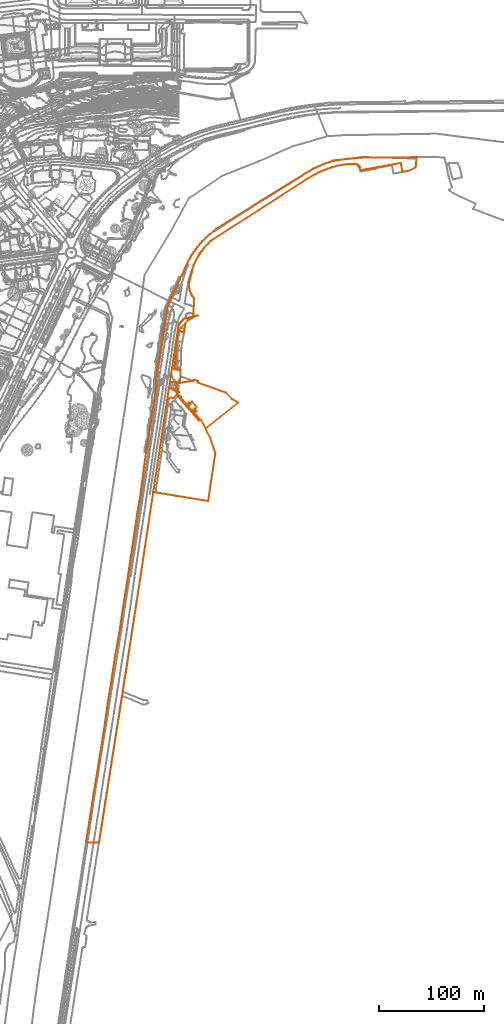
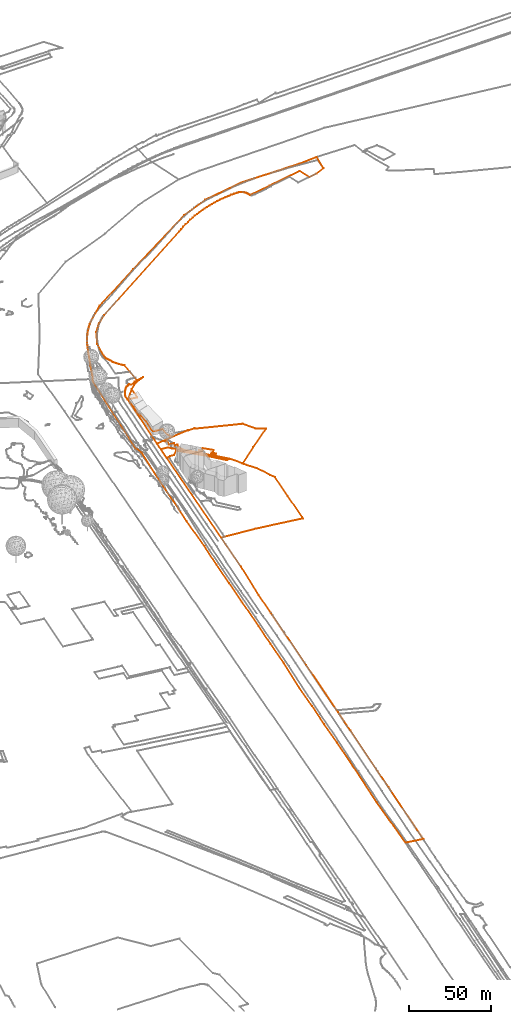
# Not in any storey, part 211 of 494: 4 proxies.
"""IFC2X3 model written with IfcOpenShell, lengths in metres."""

from ifc_helpers import new_model, entity, si_unit, frame, origin_with_axes, place, context, subcontext, project, element, save


model = new_model("IFC2X3")

# Units and contexts
model_context = context("Model", 3, precision=1e-05, world=origin_with_axes())
body_context = subcontext(model_context, "Body", "Model", "MODEL_VIEW")
ifc_project = project(units=[si_unit("AREAUNIT", "SQUARE_METRE"), si_unit("LENGTHUNIT", "METRE")], contexts=[model_context])

# Proxies
proxy_1_placement = place(None, frame((676.8477320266, 50.5827160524, 502.7417613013), z_axis=(0.0, 0.0, 1.0), x_axis=(1.0, 0.0, 0.0)))
element("IfcBuildingElementProxy", 1, at=proxy_1_placement, Name="Roads Outline 111", ObjectType="NOTDEFINED", context=body_context, shape_type="GeometricCurveSet", body=[
    entity("IfcGeometricCurveSet", [entity("IfcPolyline", [entity("IfcCartesianPoint", [0.0, 0.0, 0.0]), entity("IfcCartesianPoint", [1.4390000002, 9.5379999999, 0.0544406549]), entity("IfcCartesianPoint", [2.406, 15.7649999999, 0.1727688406]), entity("IfcCartesianPoint", [6.9340000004, 45.7609999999, 0.7243175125]), entity("IfcCartesianPoint", [8.2560000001, 54.5449999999, 1.3172059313]), entity("IfcCartesianPoint", [9.6810000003, 64.0, 0.8065225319]), entity("IfcCartesianPoint", [10.2000000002, 67.439, 1.0233395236]), entity("IfcCartesianPoint", [10.4950000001, 68.3999999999, 1.0053844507]), entity("IfcCartesianPoint", [10.852, 69.3389999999, 1.0269529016]), entity("IfcCartesianPoint", [11.2710000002, 70.2520000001, 1.0737440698]), entity("IfcCartesianPoint", [11.7490000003, 71.1359999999, 1.0879564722]), entity("IfcCartesianPoint", [12.284, 71.987, 1.1951884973]), entity("IfcCartesianPoint", [12.8740000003, 72.8, 1.2460704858]), entity("IfcCartesianPoint", [13.4890000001, 73.541, 1.2925676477]), entity("IfcCartesianPoint", [14.1510000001, 74.2420000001, 1.3398007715]), entity("IfcCartesianPoint", [14.855, 74.8999999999, 1.3813474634]), entity("IfcCartesianPoint", [15.5989999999, 75.5120000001, 1.4038541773]), entity("IfcCartesianPoint", [16.3810000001, 76.0760000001, 1.4180023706]), entity("IfcCartesianPoint", [17.196, 76.5889999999, 1.4374150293]), entity("IfcCartesianPoint", [18.0430000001, 77.0490000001, 1.4549626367]), entity("IfcCartesianPoint", [18.1230000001, 76.9310000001, 1.450461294]), entity("IfcCartesianPoint", [18.21, 76.818, 1.446150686]), entity("IfcCartesianPoint", [19.0050000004, 75.973, 1.4154185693]), entity("IfcCartesianPoint", [22.2150000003, 77.6880000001, 1.4773060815]), entity("IfcCartesianPoint", [29.2090000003, 79.274, 1.522329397]), entity("IfcCartesianPoint", [28.031, 78.8999999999, 1.5121740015]), entity("IfcCartesianPoint", [26.8689999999, 78.4790000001, 1.5013046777]), entity("IfcCartesianPoint", [25.7260000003, 78.0109999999, 1.488533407]), entity("IfcCartesianPoint", [24.602, 77.496, 1.4706322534]), entity("IfcCartesianPoint", [23.4850000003, 76.9269999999, 1.4503087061]), entity("IfcCartesianPoint", [22.392, 76.3130000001, 1.4268864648]), entity("IfcCartesianPoint", [21.3260000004, 75.6540000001, 1.407416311]), entity("IfcCartesianPoint", [20.2880000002, 74.9510000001, 1.3845676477]), entity("IfcCartesianPoint", [17.1240000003, 71.9950000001, 1.196196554]), entity("IfcCartesianPoint", [16.4510000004, 66.5020000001, 1.0481086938]), entity("IfcCartesianPoint", [16.0870000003, 63.6130000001, 0.6684468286]), entity("IfcCartesianPoint", [16.0700000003, 63.527, 0.6687932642]), entity("IfcCartesianPoint", [10.193, 64.405, 0.7658950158]), entity("IfcCartesianPoint", [8.713, 54.4780000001, 1.6639119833]), entity("IfcCartesianPoint", [7.4140000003, 45.7690000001, 0.850769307]), entity("IfcCartesianPoint", [8.0449999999, 45.781, 1.3384440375]), entity("IfcCartesianPoint", [7.8540000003, 37.7820000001, 1.0452661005]), entity("IfcCartesianPoint", [6.355, 27.791, 0.5812857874]), entity("IfcCartesianPoint", [12.656, 26.845, 0.4556467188]), entity("IfcCartesianPoint", [12.4739999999, 20.7679999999, 0.348628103]), entity("IfcCartesianPoint", [11.6159999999, 14.9990000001, 2.4412013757]), entity("IfcCartesianPoint", [11.2660000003, 14.7490000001, 2.4311992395]), entity("IfcCartesianPoint", [7.835, 15.29, 0.2884683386]), entity("IfcCartesianPoint", [7.7860000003, 14.956, 0.3265535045]), entity("IfcCartesianPoint", [8.7380000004, 14.8130000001, 0.9181942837]), entity("IfcCartesianPoint", [8.2260000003, 11.0290000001, 0.3019195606]), entity("IfcCartesianPoint", [10.3859999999, 9.189, 1.6378980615]), entity("IfcCartesianPoint", [9.6499999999, 6.355, 1.9571049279]), entity("IfcCartesianPoint", [11.0150000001, 6.156, 2.3321725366]), entity("IfcCartesianPoint", [10.986, 5.9580000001, 2.3644050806]), entity("IfcCartesianPoint", [10.6630000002, 3.7239999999, 1.6330187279]), entity("IfcCartesianPoint", [13.0300000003, 1.014, 0.4309800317]), entity("IfcCartesianPoint", [12.8430000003, 0.8500000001, 0.4423010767]), entity("IfcCartesianPoint", [18.6040000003, -5.7439999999, 0.9782828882]), entity("IfcCartesianPoint", [20.5360000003, -4.034, 0.811603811]), entity("IfcCartesianPoint", [21.9720000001, -5.6610000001, 0.9701926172]), entity("IfcCartesianPoint", [19.963, -7.433, 1.0927846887]), entity("IfcCartesianPoint", [23.6970000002, -11.716, 0.806268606]), entity("IfcCartesianPoint", [25.6950000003, -9.9750000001, 0.9323770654]), entity("IfcCartesianPoint", [27.6070000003, -12.169, 0.7912865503]), entity("IfcCartesianPoint", [26.8680000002, -12.8130000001, 0.7798090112]), entity("IfcCartesianPoint", [25.6200000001, -11.3810000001, 0.8240470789]), entity("IfcCartesianPoint", [24.3630000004, -12.4790000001, 0.785761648]), entity("IfcCartesianPoint", [31.5130000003, -20.7009999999, 0.7330401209]), entity("IfcCartesianPoint", [29.9890000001, -21.4399999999, 0.6414254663]), entity("IfcCartesianPoint", [22.3970000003, -12.442, 0.7864210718]), entity("IfcCartesianPoint", [8.7430000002, 3.3970000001, 0.1917493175]), entity("IfcCartesianPoint", [5.213, 0.291, 0.1121935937]), entity("IfcCartesianPoint", [2.7510000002, 0.5970000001, -0.0206027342]), entity("IfcCartesianPoint", [1.423, -0.2150000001, -0.0086728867]), entity("IfcCartesianPoint", [0.0, 0.0, 0.0])])]),
])
proxy_2_placement = place(None, frame((678.2867320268, 60.1207160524, 502.7962019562), z_axis=(0.0, 0.0, 1.0), x_axis=(1.0, 0.0, 0.0)))
element("IfcBuildingElementProxy", 2, at=proxy_2_placement, Name="Cadastre 137", ObjectType="NOTDEFINED", context=body_context, shape_type="GeometricCurveSet", body=[
    entity("IfcGeometricCurveSet", [entity("IfcPolyline", [entity("IfcCartesianPoint", [0.0, 0.0, 0.0]), entity("IfcCartesianPoint", [0.9669999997, 6.227, 0.1183281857]), entity("IfcCartesianPoint", [9.5349999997, 4.9380000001, 2.3658362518]), entity("IfcCartesianPoint", [22.585, 7.115, 1.6246763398]), entity("IfcCartesianPoint", [23.196, 6.8970000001, 1.7841048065]), entity("IfcCartesianPoint", [23.568, 7.8910000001, 0.9821282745]), entity("IfcCartesianPoint", [27.8709999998, 7.004, 1.7058532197]), entity("IfcCartesianPoint", [27.324, 5.4370000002, 2.3858005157]), entity("IfcCartesianPoint", [54.6889999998, -4.3189999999, 2.3262473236]), entity("IfcCartesianPoint", [60.5689999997, -10.3599999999, 0.5049738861]), entity("IfcCartesianPoint", [65.8849999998, -13.78, 0.7774375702]), entity("IfcCartesianPoint", [49.199, -27.0859999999, 0.722874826]), entity("IfcCartesianPoint", [35.1809999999, -38.443, 0.4687894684]), entity("IfcCartesianPoint", [30.9240000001, -30.621, 0.631239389]), entity("IfcCartesianPoint", [22.9219999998, -21.5359999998, 0.7398935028]), entity("IfcCartesianPoint", [26.645, -18.0189999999, 0.9947625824]), entity("IfcCartesianPoint", [22.068, -12.5859999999, 0.6656425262]), entity("IfcCartesianPoint", [18.1669999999, -16.4299999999, 1.035711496]), entity("IfcCartesianPoint", [6.3559999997, -2.9069999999, 0.2104515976]), entity("IfcCartesianPoint", [4.375, -0.621, 0.0874710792]), entity("IfcCartesianPoint", [0.0, 0.0, 0.0])])]),
])
proxy_3_placement = place(None, frame((663.3037320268, -39.1152839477, 502.6944244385), z_axis=(0.0, 0.0, 1.0), x_axis=(1.0, 0.0, 0.0)))
element("IfcBuildingElementProxy", 3, at=proxy_3_placement, Name="Cadastre 139", ObjectType="NOTDEFINED", context=body_context, shape_type="GeometricCurveSet", body=[
    entity("IfcGeometricCurveSet", [entity("IfcPolyline", [entity("IfcCartesianPoint", [0.0, 0.0, 0.0]), entity("IfcCartesianPoint", [14.983, 99.236, 0.1017775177]), entity("IfcCartesianPoint", [19.358, 98.615, 0.1892485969]), entity("IfcCartesianPoint", [21.3389999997, 96.3290000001, 0.3122291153]), entity("IfcCartesianPoint", [33.1499999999, 82.8060000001, 1.1374890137]), entity("IfcCartesianPoint", [37.051, 86.6500000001, 0.7674200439]), entity("IfcCartesianPoint", [41.628, 81.2170000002, 1.0965401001]), entity("IfcCartesianPoint", [37.9049999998, 77.7000000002, 0.8416710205]), entity("IfcCartesianPoint", [45.9070000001, 68.615, 0.7330169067]), entity("IfcCartesianPoint", [50.1639999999, 60.7930000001, 0.5705669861]), entity("IfcCartesianPoint", [49.8479999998, 60.5580000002, 0.6194990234]), entity("IfcCartesianPoint", [54.6170000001, 51.5720000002, 1.1140562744]), entity("IfcCartesianPoint", [58.1699999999, 41.219, 1.1098257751]), entity("IfcCartesianPoint", [59.4210000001, 37.6000000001, 1.1733734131]), entity("IfcCartesianPoint", [56.2369999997, 16.4750000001, 1.1733734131]), entity("IfcCartesianPoint", [52.6839999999, -7.1699999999, 1.1733734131]), entity("IfcCartesianPoint", [52.4819999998, -8.656, 1.1733734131]), entity("IfcCartesianPoint", [38.736, -6.3969999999, 1.1733734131]), entity("IfcCartesianPoint", [21.9580000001, -3.6359999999, 1.1317941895]), entity("IfcCartesianPoint", [0.0, 0.0, 0.0])])]),
])
proxy_4_placement = place(None, frame((598.9297320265, -374.3542839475, 502.3373269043), z_axis=(0.0, 0.0, 1.0), x_axis=(1.0, 0.0, 0.0)))
element("IfcBuildingElementProxy", 4, at=proxy_4_placement, Name="Cadastre 143", ObjectType="NOTDEFINED", context=body_context, shape_type="GeometricCurveSet", body=[
    entity("IfcGeometricCurveSet", [entity("IfcPolyline", [entity("IfcCartesianPoint", [0.0, 0.0, 0.0]), entity("IfcCartesianPoint", [3.0630000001, 19.6299999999, -0.4713909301]), entity("IfcCartesianPoint", [7.5130000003, 48.0619999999, -1.5358791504]), entity("IfcCartesianPoint", [14.9050000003, 93.2149999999, -1.4926230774]), entity("IfcCartesianPoint", [18.145, 114.3659999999, -1.4738861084]), entity("IfcCartesianPoint", [21.0460000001, 135.2379999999, -1.5000480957]), entity("IfcCartesianPoint", [24.466, 155.699, -1.5155128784]), entity("IfcCartesianPoint", [27.4570000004, 176.5899999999, -1.5438634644]), entity("IfcCartesianPoint", [32.3770000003, 204.0519999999, -1.5577605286]), entity("IfcCartesianPoint", [35.398, 224.764, -1.5357262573]), entity("IfcCartesianPoint", [38.6780000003, 245.0549999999, -1.5867955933]), entity("IfcCartesianPoint", [42.7790000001, 272.8269999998, -1.536949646]), entity("IfcCartesianPoint", [45.9200000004, 293.618, -1.4870898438]), entity("IfcCartesianPoint", [48.9400000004, 314.219, -1.5395290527]), entity("IfcCartesianPoint", [52.361, 334.821, -1.486732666]), entity("IfcCartesianPoint", [55.9410000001, 362.6529999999, -0.9829935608]), entity("IfcCartesianPoint", [59.142, 384.324, -0.2673035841]), entity("IfcCartesianPoint", [62.3830000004, 405.7349999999, -0.2824847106]), entity("IfcCartesianPoint", [67.5860000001, 437.2949999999, 0.2930660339]), entity("IfcCartesianPoint", [66.889, 443.1669999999, 0.1112334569]), entity("IfcCartesianPoint", [78.3870000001, 515.2549999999, 1.8307536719]), entity("IfcCartesianPoint", [81.0700000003, 520.629, 1.8800378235]), entity("IfcCartesianPoint", [94.909, 549.8369999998, -1.7539702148]), entity("IfcCartesianPoint", [95.9790000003, 552.193, -1.6349768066]), entity("IfcCartesianPoint", [97.1130000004, 554.52, -1.54229776]), entity("IfcCartesianPoint", [98.3090000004, 556.8149999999, -1.5048430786]), entity("IfcCartesianPoint", [99.5660000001, 559.0759999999, -1.4688398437]), entity("IfcCartesianPoint", [100.8840000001, 561.304, -1.4202419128]), entity("IfcCartesianPoint", [102.2620000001, 563.4939999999, -1.4478141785]), entity("IfcCartesianPoint", [103.6980000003, 565.6469999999, -1.4585239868]), entity("IfcCartesianPoint", [105.0820000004, 567.6099999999, -1.4536530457]), entity("IfcCartesianPoint", [106.5160000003, 569.537, -1.4385842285]), entity("IfcCartesianPoint", [107.9960000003, 571.4279999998, -1.5000209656]), entity("IfcCartesianPoint", [109.5240000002, 573.281, -1.580064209]), entity("IfcCartesianPoint", [111.0970000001, 575.0959999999, -1.6167070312]), entity("IfcCartesianPoint", [124.5, 587.0989999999, -1.5215056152]), entity("IfcCartesianPoint", [161.5020000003, 610.398, -1.3025924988]), entity("IfcCartesianPoint", [217.0060000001, 644.5999999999, -1.5670845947]), entity("IfcCartesianPoint", [236.3060000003, 652.3029999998, -1.5993442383]), entity("IfcCartesianPoint", [263.4130000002, 655.4539999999, -0.100627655]), entity("IfcCartesianPoint", [304.1630000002, 655.0549999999, -0.2310259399]), entity("IfcCartesianPoint", [316.4380000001, 655.726, -0.0117345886]), entity("IfcCartesianPoint", [315.2590000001, 645.602, -1.5996526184]), entity("IfcCartesianPoint", [308.5630000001, 642.4979999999, -1.4977512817]), entity("IfcCartesianPoint", [302.7570000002, 641.432, -1.462533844]), entity("IfcCartesianPoint", [301.1770000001, 650.074, -1.6045248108]), entity("IfcCartesianPoint", [277.3990000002, 645.71, -1.6031363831]), entity("IfcCartesianPoint", [262.361, 642.9749999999, -1.5135018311]), entity("IfcCartesianPoint", [262.2770000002, 643.7209999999, -1.5381560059]), entity("IfcCartesianPoint", [262.122, 644.456, -1.5623560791]), entity("IfcCartesianPoint", [261.8960000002, 645.173, -1.5858143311]), entity("IfcCartesianPoint", [261.6020000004, 645.8639999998, -1.6081039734]), entity("IfcCartesianPoint", [261.2430000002, 646.524, -1.6131450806]), entity("IfcCartesianPoint", [260.8220000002, 647.1459999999, -1.6126561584]), entity("IfcCartesianPoint", [260.3430000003, 647.7239999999, -1.6110509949]), entity("IfcCartesianPoint", [259.8100000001, 648.254, -1.6095791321]), entity("IfcCartesianPoint", [259.3660000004, 648.5, -1.6088959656]), entity("IfcCartesianPoint", [258.8990000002, 648.703, -1.6083322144]), entity("IfcCartesianPoint", [258.4160000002, 648.8589999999, -1.6078989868]), entity("IfcCartesianPoint", [257.9190000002, 648.9679999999, -1.607596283]), entity("IfcCartesianPoint", [257.4140000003, 649.0279999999, -1.607429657]), entity("IfcCartesianPoint", [256.9050000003, 649.037, -1.6074046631]), entity("IfcCartesianPoint", [254.7490000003, 649.0189999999, -1.6074546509]), entity("IfcCartesianPoint", [252.594, 648.9369999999, -1.607682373]), entity("IfcCartesianPoint", [250.4420000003, 648.79, -1.6080906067]), entity("IfcCartesianPoint", [248.2960000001, 648.5799999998, -1.6086737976]), entity("IfcCartesianPoint", [246.1570000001, 648.304, -1.6094402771]), entity("IfcCartesianPoint", [244.0280000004, 647.966, -1.6103789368]), entity("IfcCartesianPoint", [241.909, 647.5629999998, -1.6114981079]), entity("IfcCartesianPoint", [239.7560000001, 647.0859999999, -1.6128227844]), entity("IfcCartesianPoint", [237.6190000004, 646.544, -1.613138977]), entity("IfcCartesianPoint", [235.5, 645.9369999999, -1.6104587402]), entity("IfcCartesianPoint", [233.4000000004, 645.2649999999, -1.5887819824]), entity("IfcCartesianPoint", [231.321, 644.53, -1.5647860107]), entity("IfcCartesianPoint", [229.2660000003, 643.7319999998, -1.5385195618]), entity("IfcCartesianPoint", [226.8690000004, 642.7409999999, -1.5057751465]), entity("IfcCartesianPoint", [224.4940000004, 641.6969999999, -1.4712922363]), entity("IfcCartesianPoint", [222.1430000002, 640.601, -1.4350688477]), entity("IfcCartesianPoint", [219.8170000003, 639.4519999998, -1.3970937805]), entity("IfcCartesianPoint", [217.517, 638.253, -1.3574661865]), entity("IfcCartesianPoint", [215.2440000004, 637.0019999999, -1.3509064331]), entity("IfcCartesianPoint", [212.7280000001, 635.5379999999, -1.383863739]), entity("IfcCartesianPoint", [210.25, 634.0119999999, -1.4181856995]), entity("IfcCartesianPoint", [207.8100000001, 632.425, -1.4538979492]), entity("IfcCartesianPoint", [205.4100000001, 630.7779999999, -1.4909535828]), entity("IfcCartesianPoint", [122.0280000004, 577.3909999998, -1.6043261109]), entity("IfcCartesianPoint", [114.7960000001, 571.179, -1.487460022]), entity("IfcCartesianPoint", [108.767, 563.8599999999, -1.4496347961]), entity("IfcCartesianPoint", [103.0950000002, 552.7509999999, -1.6037970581]), entity("IfcCartesianPoint", [99.7050000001, 539.3689999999, -0.882328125]), entity("IfcCartesianPoint", [99.355, 538.3089999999, -0.6483660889]), entity("IfcCartesianPoint", [99.0700000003, 537.23, -0.3026967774]), entity("IfcCartesianPoint", [98.8520000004, 536.1359999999, 0.1230344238]), entity("IfcCartesianPoint", [98.7000000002, 535.03, 0.4576315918]), entity("IfcCartesianPoint", [98.6170000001, 533.9169999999, 0.6897115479]), entity("IfcCartesianPoint", [98.6010000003, 532.801, 0.973605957]), entity("IfcCartesianPoint", [98.6540000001, 531.6869999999, 1.1447709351]), entity("IfcCartesianPoint", [98.7750000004, 530.5769999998, 1.387052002]), entity("IfcCartesianPoint", [98.963, 529.477, 1.5590767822]), entity("IfcCartesianPoint", [99.219, 528.3859999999, 1.6459458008]), entity("IfcCartesianPoint", [99.5420000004, 527.314, 1.732284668]), entity("IfcCartesianPoint", [99.929, 526.263, 1.8000009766]), entity("IfcCartesianPoint", [100.3810000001, 525.237, 1.8595965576]), entity("IfcCartesianPoint", [100.8940000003, 524.2409999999, 1.9122114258]), entity("IfcCartesianPoint", [101.4670000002, 523.2789999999, 1.9690143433]), entity("IfcCartesianPoint", [102.0990000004, 522.3529999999, 2.0217731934]), entity("IfcCartesianPoint", [102.7850000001, 521.4679999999, 2.0551823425]), entity("IfcCartesianPoint", [103.5250000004, 520.6269999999, 2.0833688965]), entity("IfcCartesianPoint", [102.52, 502.433, 1.8750666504]), entity("IfcCartesianPoint", [101.4030000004, 501.8639999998, 1.854743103]), entity("IfcCartesianPoint", [100.3100000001, 501.25, 1.8313208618]), entity("IfcCartesianPoint", [99.2440000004, 500.591, 1.811850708]), entity("IfcCartesianPoint", [98.2060000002, 499.888, 1.7890020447]), entity("IfcCartesianPoint", [95.0420000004, 496.932, 1.6006309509]), entity("IfcCartesianPoint", [90.483, 492.0209999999, 1.4505893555]), entity("IfcCartesianPoint", [87.5990000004, 488.9369999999, 1.2109569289]), entity("IfcCartesianPoint", [86.1740000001, 479.4819999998, 1.7216403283]), entity("IfcCartesianPoint", [84.8520000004, 470.6979999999, 1.1287519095]), entity("IfcCartesianPoint", [80.324, 440.7019999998, 0.5772032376]), entity("IfcCartesianPoint", [79.3570000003, 434.4749999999, 0.4588750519]), entity("IfcCartesianPoint", [64.3740000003, 335.2389999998, 0.3570975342]), entity("IfcCartesianPoint", [59.4620000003, 302.7279999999, 0.4638451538]), entity("IfcCartesianPoint", [55.0320000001, 273.459, -1.3700273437]), entity("IfcCartesianPoint", [52.0260000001, 253.578, -1.4971409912]), entity("IfcCartesianPoint", [48.4990000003, 230.459, -1.5357607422]), entity("IfcCartesianPoint", [43.091, 194.9619999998, -1.5207440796]), entity("IfcCartesianPoint", [38.1520000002, 162.844, -1.5730268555]), entity("IfcCartesianPoint", [34.8490000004, 142.1439999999, -1.5397304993]), entity("IfcCartesianPoint", [31.574, 121.179, -1.5636173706]), entity("IfcCartesianPoint", [24.4770000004, 76.1269999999, -1.5156172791]), entity("IfcCartesianPoint", [21.6210000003, 57.888, -1.5025253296]), entity("IfcCartesianPoint", [18.5590000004, 38.2919999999, -1.475460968]), entity("IfcCartesianPoint", [12.5440000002, -0.121, -1.5081142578]), entity("IfcCartesianPoint", [0.0, 0.0, 0.0])])]),
])

save(model, "model.ifc")
